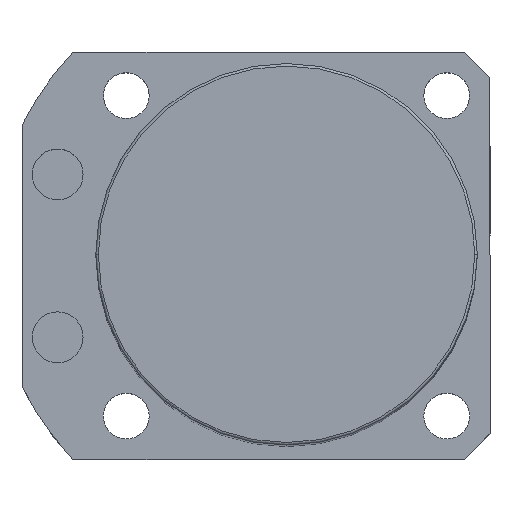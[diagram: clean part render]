
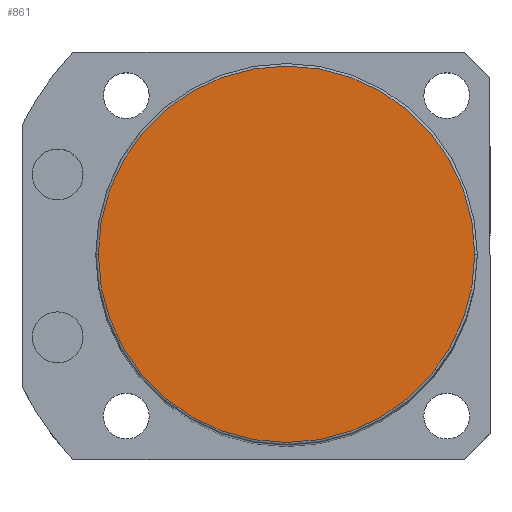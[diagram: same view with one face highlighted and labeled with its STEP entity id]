
A CAD part, top view. The second image highlights one B-rep face of the part: STEP entity #861.
In plain terms, the highlighted planar face has unit normal (0, 0, 1).
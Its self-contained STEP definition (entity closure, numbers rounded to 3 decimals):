
#180 = VERTEX_POINT ( 'NONE', #5126 ) ;
#315 = CARTESIAN_POINT ( 'NONE',  ( 0., 0., 195.5 ) ) ;
#861 = ADVANCED_FACE ( 'NONE', ( #5788 ), #6212, .T. ) ;
#1378 = EDGE_CURVE ( 'NONE', #3567, #180, #4412, .T. ) ;
#1645 = CIRCLE ( 'NONE', #4416, 37. ) ;
#1677 = CARTESIAN_POINT ( 'NONE',  ( 0., 0., 195.5 ) ) ;
#2085 = DIRECTION ( 'NONE',  ( 1., 0., 0. ) ) ;
#2765 = CARTESIAN_POINT ( 'NONE',  ( 37., 0., 195.5 ) ) ;
#2923 = AXIS2_PLACEMENT_3D ( 'NONE', #2961, #5514, #6033 ) ;
#2961 = CARTESIAN_POINT ( 'NONE',  ( 0., 0., 195.5 ) ) ;
#3213 = ORIENTED_EDGE ( 'NONE', *, *, #1378, .T. ) ;
#3295 = DIRECTION ( 'NONE',  ( 1., 0., 0. ) ) ;
#3567 = VERTEX_POINT ( 'NONE', #2765 ) ;
#3610 = EDGE_CURVE ( 'NONE', #180, #3567, #1645, .T. ) ;
#3851 = AXIS2_PLACEMENT_3D ( 'NONE', #1677, #5140, #2085 ) ;
#4412 = CIRCLE ( 'NONE', #2923, 37. ) ;
#4416 = AXIS2_PLACEMENT_3D ( 'NONE', #315, #5344, #3295 ) ;
#5126 = CARTESIAN_POINT ( 'NONE',  ( -37., 0., 195.5 ) ) ;
#5140 = DIRECTION ( 'NONE',  ( 0., 0., 1. ) ) ;
#5343 = EDGE_LOOP ( 'NONE', ( #3213, #5654 ) ) ;
#5344 = DIRECTION ( 'NONE',  ( 0., 0., 1. ) ) ;
#5514 = DIRECTION ( 'NONE',  ( 0., 0., 1. ) ) ;
#5654 = ORIENTED_EDGE ( 'NONE', *, *, #3610, .T. ) ;
#5788 = FACE_OUTER_BOUND ( 'NONE', #5343, .T. ) ;
#6033 = DIRECTION ( 'NONE',  ( 1., 0., 0. ) ) ;
#6212 = PLANE ( 'NONE',  #3851 ) ;
